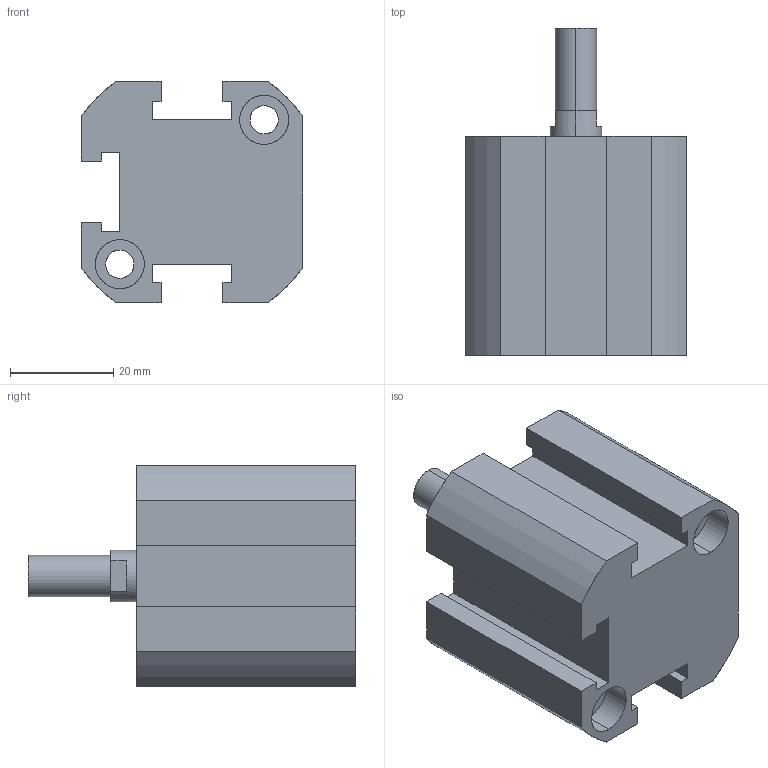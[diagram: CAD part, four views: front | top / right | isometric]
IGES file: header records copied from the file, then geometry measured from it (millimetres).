
Start section: SolidWorks IGES file using analytic representation for surfaces
Global section: file name: C:\Users\Toshiba\Desktop\XG#M1-25D-10.IGS; native system: SolidWorks 2014; preprocessor: SolidWorks 2014; author: Toshiba; date: 160524.100753; units: millimetre
Bounding box: 43 x 63.5 x 43 mm (x, y, z)
Surface area: 15021.6 mm2 (no closed solid volume)
Topology: 0 solids, 0 shells, 88 faces, 1288 edges, 1286 vertices
Faces by surface type: bspline 46, revolution 42
